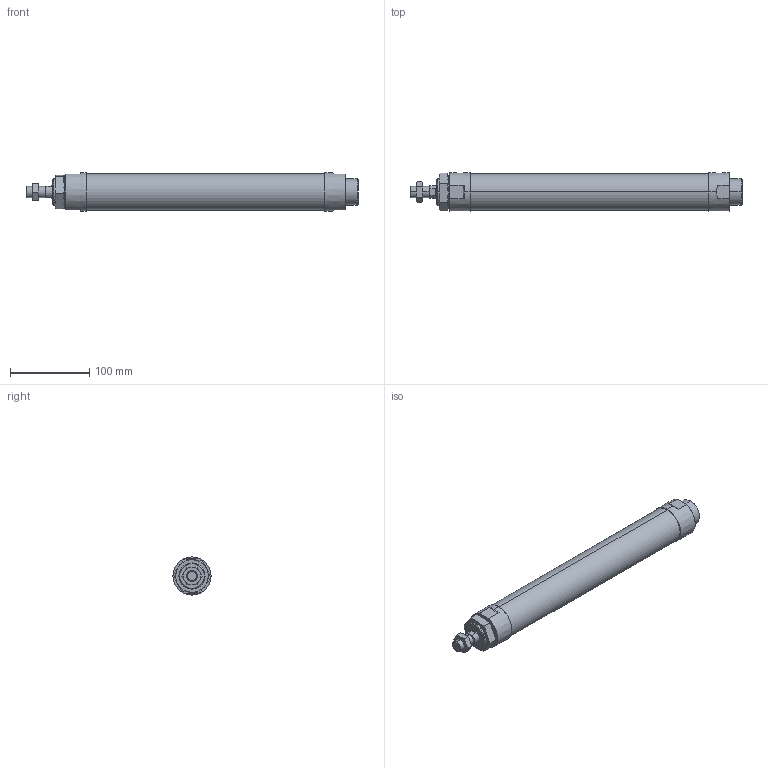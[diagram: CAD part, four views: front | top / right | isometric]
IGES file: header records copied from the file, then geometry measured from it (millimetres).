
Start section: SolidWorks IGES file using analytic representation for surfaces
Global section: file name: C:\Users\Toshiba\Desktop\J#2-40-250-N.IGS; native system: SolidWorks 2014; preprocessor: SolidWorks 2014; author: Toshiba; date: 160308.160815; units: millimetre
Bounding box: 419 x 48 x 48 mm (x, y, z)
Surface area: 66564.5 mm2 (no closed solid volume)
Topology: 0 solids, 0 shells, 94 faces, 1846 edges, 1842 vertices
Faces by surface type: bspline 57, revolution 37
